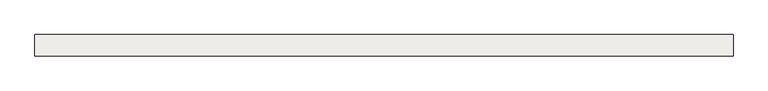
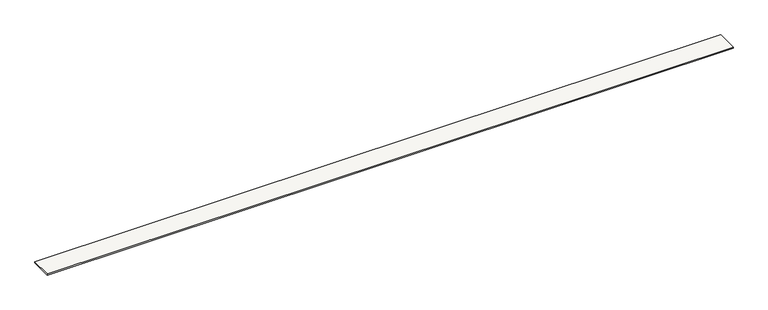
"""IFC4 building model written with IfcOpenShell, lengths in millimetres: slab geometry, Sol-02 - Tablette bois 2cm."""

from ifc_helpers import new_model, si_unit, origin, origin_with_axes, place, context, project, spatial, polyline, outline, extrude, source, transform, mapped, element, save


def slab_a52946e9(model_context):
    return source(origin(), model_context, "Body", "SweptSolid", [
        extrude(outline(polyline([(51106.9999476, 9.0), (51106.9999476, 309.0), (60824.9999479, 309.0), (60824.9999479, 9.0), (51106.9999476, 9.0)])), origin_with_axes(), (0.0, 0.0, 1.0), 20.0),
    ])


if __name__ == "__main__":
    model = new_model("IFC4")
    model_context = context("Model", 3, world=origin())
    ifc_project = project(units=[si_unit("LENGTHUNIT", "METRE", prefix="MILLI")], contexts=[model_context])
    site = spatial("IfcSite", under=ifc_project)
    building = spatial("IfcBuilding", under=site)
    placement = place(None, origin())
    slab_shape = slab_a52946e9(model_context)
    element("IfcSlab", 1, ObjectType="Sol-02 - Tablette bois 2cm", at=placement, inside=building, context=model_context, shape_type="MappedRepresentation", body=[
        mapped(slab_shape, transform((0.0, 0.0, 0.0), x_axis=(1.0, 0.0, 0.0), y_axis=(0.0, 1.0, 0.0), z_axis=(0.0, 0.0, 1.0))),
    ])
    save(model, "model.ifc")
